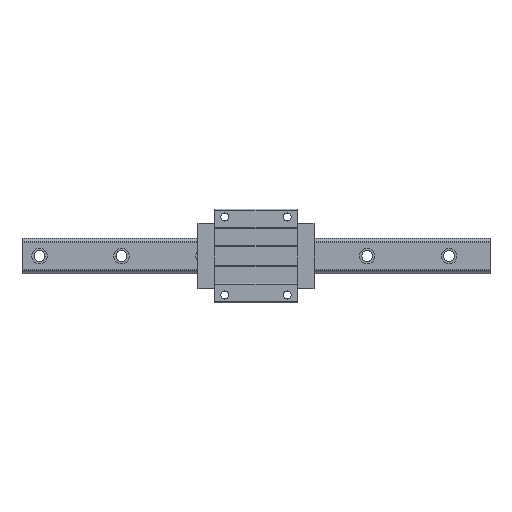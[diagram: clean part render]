
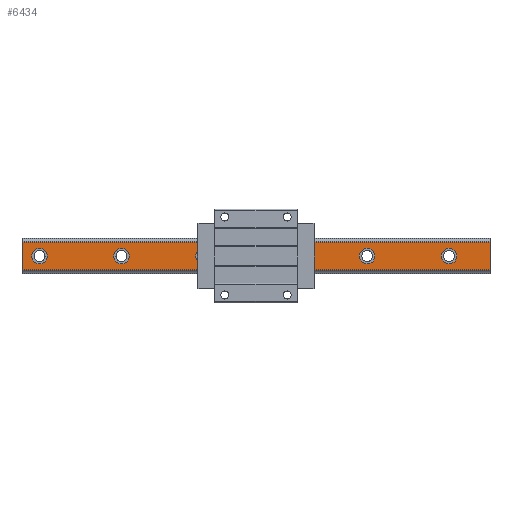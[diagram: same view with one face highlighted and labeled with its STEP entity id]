
A CAD part, top view. The second image highlights one B-rep face of the part: STEP entity #6434.
In plain terms, the highlighted planar face has unit normal (0, 0, 1).
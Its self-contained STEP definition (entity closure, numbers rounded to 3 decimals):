
#27 = CARTESIAN_POINT ( 'NONE',  ( 37.5, 0., 32. ) ) ;
#121 = ORIENTED_EDGE ( 'NONE', *, *, #6186, .F. ) ;
#123 = DIRECTION ( 'NONE',  ( 1., 0., 0. ) ) ;
#196 = DIRECTION ( 'NONE',  ( 0., 0., 1. ) ) ;
#197 = ORIENTED_EDGE ( 'NONE', *, *, #5552, .F. ) ;
#203 = CARTESIAN_POINT ( 'NONE',  ( 142.5, 0., 32. ) ) ;
#337 = EDGE_CURVE ( 'NONE', #6988, #4090, #6291, .T. ) ;
#342 = DIRECTION ( 'NONE',  ( 1., 0., 0. ) ) ;
#357 = DIRECTION ( 'NONE',  ( 0., -1., 0. ) ) ;
#361 = ORIENTED_EDGE ( 'NONE', *, *, #394, .F. ) ;
#370 = ORIENTED_EDGE ( 'NONE', *, *, #2272, .F. ) ;
#394 = EDGE_CURVE ( 'NONE', #3149, #866, #5149, .T. ) ;
#446 = AXIS2_PLACEMENT_3D ( 'NONE', #4359, #5640, #6650 ) ;
#498 = LINE ( 'NONE', #6832, #2511 ) ;
#605 = CARTESIAN_POINT ( 'NONE',  ( 142.5, 0., 32. ) ) ;
#640 = ORIENTED_EDGE ( 'NONE', *, *, #3283, .F. ) ;
#709 = VERTEX_POINT ( 'NONE', #4929 ) ;
#747 = VERTEX_POINT ( 'NONE', #4485 ) ;
#786 = LINE ( 'NONE', #4721, #2100 ) ;
#858 = ORIENTED_EDGE ( 'NONE', *, *, #4596, .F. ) ;
#866 = VERTEX_POINT ( 'NONE', #1970 ) ;
#998 = CARTESIAN_POINT ( 'NONE',  ( -57.5, 0., 32. ) ) ;
#1002 = DIRECTION ( 'NONE',  ( 0., 0., 1. ) ) ;
#1108 = CARTESIAN_POINT ( 'NONE',  ( 152.5, 0., 32. ) ) ;
#1157 = DIRECTION ( 'NONE',  ( 1., 0., 0. ) ) ;
#1172 = CARTESIAN_POINT ( 'NONE',  ( 27.5, 0., 32. ) ) ;
#1212 = CARTESIAN_POINT ( 'NONE',  ( 47.5, 0., 32. ) ) ;
#1274 = DIRECTION ( 'NONE',  ( 1., 0., 0. ) ) ;
#1397 = DIRECTION ( 'NONE',  ( 0., 0., 1. ) ) ;
#1444 = DIRECTION ( 'NONE',  ( 1., 0., 0. ) ) ;
#1454 = CIRCLE ( 'NONE', #2642, 10. ) ;
#1496 = VERTEX_POINT ( 'NONE', #1694 ) ;
#1527 = VERTEX_POINT ( 'NONE', #1172 ) ;
#1587 = LINE ( 'NONE', #6238, #6180 ) ;
#1608 = EDGE_CURVE ( 'NONE', #4090, #5992, #786, .T. ) ;
#1694 = CARTESIAN_POINT ( 'NONE',  ( 300., -17.738, 32. ) ) ;
#1697 = AXIS2_PLACEMENT_3D ( 'NONE', #5329, #1397, #342 ) ;
#1741 = FACE_BOUND ( 'NONE', #7074, .T. ) ;
#1752 = AXIS2_PLACEMENT_3D ( 'NONE', #27, #5757, #7325 ) ;
#1925 = DIRECTION ( 'NONE',  ( 0., 0., 1. ) ) ;
#1926 = CARTESIAN_POINT ( 'NONE',  ( -172.5, 0., 32. ) ) ;
#1970 = CARTESIAN_POINT ( 'NONE',  ( -267.5, 0., 32. ) ) ;
#1993 = CIRCLE ( 'NONE', #1752, 10. ) ;
#2015 = CARTESIAN_POINT ( 'NONE',  ( -162.5, 0., 32. ) ) ;
#2042 = AXIS2_PLACEMENT_3D ( 'NONE', #4135, #3685, #5933 ) ;
#2100 = VECTOR ( 'NONE', #6982, 1000. ) ;
#2110 = DIRECTION ( 'NONE',  ( -1., 0., 0. ) ) ;
#2272 = EDGE_CURVE ( 'NONE', #6697, #1527, #6910, .T. ) ;
#2289 = AXIS2_PLACEMENT_3D ( 'NONE', #7397, #7356, #4553 ) ;
#2318 = AXIS2_PLACEMENT_3D ( 'NONE', #605, #1925, #123 ) ;
#2363 = EDGE_LOOP ( 'NONE', ( #7345, #640, #4037, #6247 ) ) ;
#2370 = CIRCLE ( 'NONE', #4392, 10. ) ;
#2391 = CARTESIAN_POINT ( 'NONE',  ( 300., 17.738, 32. ) ) ;
#2435 = DIRECTION ( 'NONE',  ( 0., 0., 1. ) ) ;
#2439 = VERTEX_POINT ( 'NONE', #1108 ) ;
#2501 = AXIS2_PLACEMENT_3D ( 'NONE', #5688, #2841, #1157 ) ;
#2504 = VERTEX_POINT ( 'NONE', #5696 ) ;
#2511 = VECTOR ( 'NONE', #2110, 1000. ) ;
#2634 = AXIS2_PLACEMENT_3D ( 'NONE', #203, #5378, #5862 ) ;
#2642 = AXIS2_PLACEMENT_3D ( 'NONE', #1926, #196, #6567 ) ;
#2655 = EDGE_CURVE ( 'NONE', #709, #5479, #2370, .T. ) ;
#2826 = FACE_BOUND ( 'NONE', #6264, .T. ) ;
#2841 = DIRECTION ( 'NONE',  ( 0., 0., 1. ) ) ;
#2844 = VERTEX_POINT ( 'NONE', #2015 ) ;
#2897 = ORIENTED_EDGE ( 'NONE', *, *, #3530, .F. ) ;
#2956 = CARTESIAN_POINT ( 'NONE',  ( 300., 17.738, 32. ) ) ;
#3009 = VECTOR ( 'NONE', #5845, 1000. ) ;
#3130 = EDGE_LOOP ( 'NONE', ( #7105, #197 ) ) ;
#3149 = VERTEX_POINT ( 'NONE', #7204 ) ;
#3229 = CIRCLE ( 'NONE', #2042, 10. ) ;
#3283 = EDGE_CURVE ( 'NONE', #1496, #5992, #498, .T. ) ;
#3530 = EDGE_CURVE ( 'NONE', #866, #3149, #5884, .T. ) ;
#3587 = DIRECTION ( 'NONE',  ( 0., 0., 1. ) ) ;
#3598 = CARTESIAN_POINT ( 'NONE',  ( -300., 17.738, 32. ) ) ;
#3629 = EDGE_CURVE ( 'NONE', #6826, #2844, #1454, .T. ) ;
#3685 = DIRECTION ( 'NONE',  ( 0., 0., 1. ) ) ;
#3925 = CARTESIAN_POINT ( 'NONE',  ( -67.5, 0., 32. ) ) ;
#3930 = ORIENTED_EDGE ( 'NONE', *, *, #6477, .F. ) ;
#4037 = ORIENTED_EDGE ( 'NONE', *, *, #7296, .F. ) ;
#4090 = VERTEX_POINT ( 'NONE', #3598 ) ;
#4135 = CARTESIAN_POINT ( 'NONE',  ( -172.5, 0., 32. ) ) ;
#4194 = DIRECTION ( 'NONE',  ( 1., 0., 0. ) ) ;
#4359 = CARTESIAN_POINT ( 'NONE',  ( 37.5, 0., 32. ) ) ;
#4392 = AXIS2_PLACEMENT_3D ( 'NONE', #5207, #2435, #4194 ) ;
#4458 = EDGE_LOOP ( 'NONE', ( #370, #858 ) ) ;
#4485 = CARTESIAN_POINT ( 'NONE',  ( 132.5, 0., 32. ) ) ;
#4553 = DIRECTION ( 'NONE',  ( 0., 1., 0. ) ) ;
#4568 = AXIS2_PLACEMENT_3D ( 'NONE', #7006, #5693, #1274 ) ;
#4582 = CIRCLE ( 'NONE', #2318, 10. ) ;
#4596 = EDGE_CURVE ( 'NONE', #1527, #6697, #1993, .T. ) ;
#4603 = EDGE_LOOP ( 'NONE', ( #121, #6344 ) ) ;
#4721 = CARTESIAN_POINT ( 'NONE',  ( -300., -17.738, 32. ) ) ;
#4785 = ORIENTED_EDGE ( 'NONE', *, *, #3629, .F. ) ;
#4929 = CARTESIAN_POINT ( 'NONE',  ( 237.5, 0., 32. ) ) ;
#5031 = CIRCLE ( 'NONE', #2634, 10. ) ;
#5061 = ORIENTED_EDGE ( 'NONE', *, *, #6712, .F. ) ;
#5071 = FACE_BOUND ( 'NONE', #3130, .T. ) ;
#5113 = FACE_OUTER_BOUND ( 'NONE', #2363, .T. ) ;
#5129 = CIRCLE ( 'NONE', #2501, 10. ) ;
#5149 = CIRCLE ( 'NONE', #4568, 10. ) ;
#5207 = CARTESIAN_POINT ( 'NONE',  ( 247.5, 0., 32. ) ) ;
#5325 = AXIS2_PLACEMENT_3D ( 'NONE', #5635, #3587, #1444 ) ;
#5329 = CARTESIAN_POINT ( 'NONE',  ( -277.5, 0., 32. ) ) ;
#5378 = DIRECTION ( 'NONE',  ( 0., 0., 1. ) ) ;
#5479 = VERTEX_POINT ( 'NONE', #7368 ) ;
#5552 = EDGE_CURVE ( 'NONE', #2504, #5784, #5129, .T. ) ;
#5565 = CIRCLE ( 'NONE', #5325, 10. ) ;
#5576 = DIRECTION ( 'NONE',  ( 1., 0., 0. ) ) ;
#5635 = CARTESIAN_POINT ( 'NONE',  ( 247.5, 0., 32. ) ) ;
#5640 = DIRECTION ( 'NONE',  ( 0., 0., 1. ) ) ;
#5688 = CARTESIAN_POINT ( 'NONE',  ( -67.5, 0., 32. ) ) ;
#5693 = DIRECTION ( 'NONE',  ( 0., 0., 1. ) ) ;
#5696 = CARTESIAN_POINT ( 'NONE',  ( -77.5, 0., 32. ) ) ;
#5753 = PLANE ( 'NONE',  #2289 ) ;
#5757 = DIRECTION ( 'NONE',  ( 0., 0., 1. ) ) ;
#5784 = VERTEX_POINT ( 'NONE', #998 ) ;
#5826 = FACE_BOUND ( 'NONE', #4458, .T. ) ;
#5845 = DIRECTION ( 'NONE',  ( -1., 0., 0. ) ) ;
#5862 = DIRECTION ( 'NONE',  ( 1., 0., 0. ) ) ;
#5884 = CIRCLE ( 'NONE', #1697, 10. ) ;
#5933 = DIRECTION ( 'NONE',  ( 1., 0., 0. ) ) ;
#5977 = EDGE_LOOP ( 'NONE', ( #3930, #4785 ) ) ;
#5992 = VERTEX_POINT ( 'NONE', #6431 ) ;
#6134 = AXIS2_PLACEMENT_3D ( 'NONE', #3925, #1002, #5576 ) ;
#6180 = VECTOR ( 'NONE', #357, 1000. ) ;
#6186 = EDGE_CURVE ( 'NONE', #5479, #709, #5565, .T. ) ;
#6238 = CARTESIAN_POINT ( 'NONE',  ( 300., -17.738, 32. ) ) ;
#6247 = ORIENTED_EDGE ( 'NONE', *, *, #337, .T. ) ;
#6264 = EDGE_LOOP ( 'NONE', ( #2897, #361 ) ) ;
#6291 = LINE ( 'NONE', #2956, #3009 ) ;
#6344 = ORIENTED_EDGE ( 'NONE', *, *, #2655, .F. ) ;
#6431 = CARTESIAN_POINT ( 'NONE',  ( -300., -17.738, 32. ) ) ;
#6434 = ADVANCED_FACE ( 'NONE', ( #6916, #1741, #5826, #5071, #6802, #2826, #5113 ), #5753, .F. ) ;
#6477 = EDGE_CURVE ( 'NONE', #2844, #6826, #3229, .T. ) ;
#6539 = EDGE_CURVE ( 'NONE', #747, #2439, #5031, .T. ) ;
#6567 = DIRECTION ( 'NONE',  ( 1., 0., 0. ) ) ;
#6650 = DIRECTION ( 'NONE',  ( 1., 0., 0. ) ) ;
#6697 = VERTEX_POINT ( 'NONE', #1212 ) ;
#6712 = EDGE_CURVE ( 'NONE', #2439, #747, #4582, .T. ) ;
#6738 = CIRCLE ( 'NONE', #6134, 10. ) ;
#6802 = FACE_BOUND ( 'NONE', #5977, .T. ) ;
#6826 = VERTEX_POINT ( 'NONE', #6983 ) ;
#6832 = CARTESIAN_POINT ( 'NONE',  ( 300., -17.738, 32. ) ) ;
#6890 = EDGE_CURVE ( 'NONE', #5784, #2504, #6738, .T. ) ;
#6910 = CIRCLE ( 'NONE', #446, 10. ) ;
#6916 = FACE_BOUND ( 'NONE', #4603, .T. ) ;
#6972 = ORIENTED_EDGE ( 'NONE', *, *, #6539, .F. ) ;
#6982 = DIRECTION ( 'NONE',  ( 0., -1., 0. ) ) ;
#6983 = CARTESIAN_POINT ( 'NONE',  ( -182.5, 0., 32. ) ) ;
#6988 = VERTEX_POINT ( 'NONE', #2391 ) ;
#7006 = CARTESIAN_POINT ( 'NONE',  ( -277.5, 0., 32. ) ) ;
#7074 = EDGE_LOOP ( 'NONE', ( #5061, #6972 ) ) ;
#7105 = ORIENTED_EDGE ( 'NONE', *, *, #6890, .F. ) ;
#7204 = CARTESIAN_POINT ( 'NONE',  ( -287.5, 0., 32. ) ) ;
#7296 = EDGE_CURVE ( 'NONE', #6988, #1496, #1587, .T. ) ;
#7325 = DIRECTION ( 'NONE',  ( 1., 0., 0. ) ) ;
#7345 = ORIENTED_EDGE ( 'NONE', *, *, #1608, .T. ) ;
#7356 = DIRECTION ( 'NONE',  ( 0., 0., -1. ) ) ;
#7368 = CARTESIAN_POINT ( 'NONE',  ( 257.5, 0., 32. ) ) ;
#7397 = CARTESIAN_POINT ( 'NONE',  ( 300., -17.738, 32. ) ) ;
